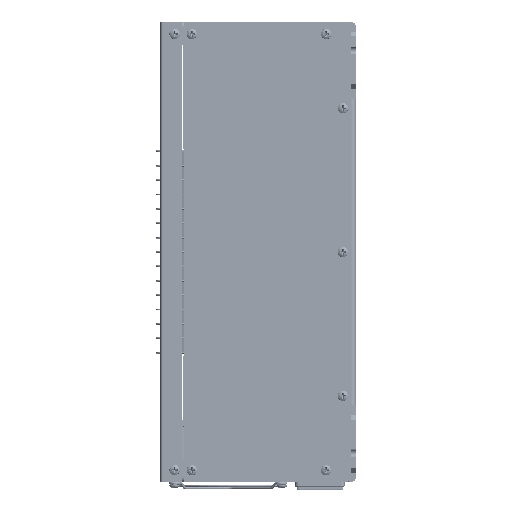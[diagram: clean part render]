
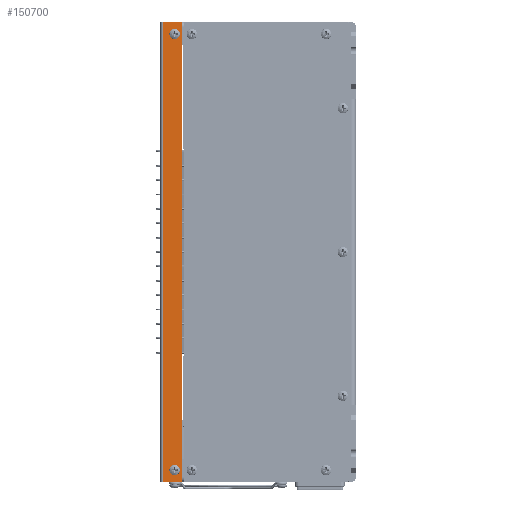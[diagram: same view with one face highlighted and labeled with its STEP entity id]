
A CAD part, left-side view. The second image highlights one B-rep face of the part: STEP entity #150700.
In plain terms, the highlighted planar face has unit normal (-1, 0, 0).
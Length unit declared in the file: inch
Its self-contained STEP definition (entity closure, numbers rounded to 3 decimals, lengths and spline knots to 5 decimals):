
#45 = DIRECTION ( 'NONE',  ( 0., 0., -1. ) ) ;
#48 = DIRECTION ( 'NONE',  ( 1., 0., 0. ) ) ;
#52 = CARTESIAN_POINT ( 'NONE',  ( 0., -0.375, 0.3125 ) ) ;
#24650 = VERTEX_POINT ( 'NONE', #376387 ) ;
#57467 = EDGE_CURVE ( 'NONE', #24650, #318519, #335330, .T. ) ;
#81429 = CARTESIAN_POINT ( 'NONE',  ( 0., -0.375, 0.4065 ) ) ;
#81998 = CARTESIAN_POINT ( 'NONE',  ( 0., -0.375, 0.2185 ) ) ;
#83243 = DIRECTION ( 'NONE',  ( 0., 0., -1. ) ) ;
#83244 = DIRECTION ( 'NONE',  ( 1., 0., 0. ) ) ;
#83246 = CARTESIAN_POINT ( 'NONE',  ( 0., -0.375, 0.3125 ) ) ;
#83297 = CIRCLE ( 'NONE', #83306, 0.094 ) ;
#83306 = AXIS2_PLACEMENT_3D ( 'NONE', #83246, #83244, #83243 ) ;
#85593 = VERTEX_POINT ( 'NONE', #81429 ) ;
#85671 = VERTEX_POINT ( 'NONE', #81998 ) ;
#85951 = EDGE_CURVE ( 'NONE', #85593, #85671, #83297, .T. ) ;
#86493 = EDGE_CURVE ( 'NONE', #86773, #86750, #86533, .T. ) ;
#86515 = DIRECTION ( 'NONE',  ( 0., 0., -1. ) ) ;
#86518 = DIRECTION ( 'NONE',  ( 1., 0., 0. ) ) ;
#86520 = CARTESIAN_POINT ( 'NONE',  ( 0., -0.375, 11.6875 ) ) ;
#86522 = AXIS2_PLACEMENT_3D ( 'NONE', #86520, #86518, #86515 ) ;
#86533 = CIRCLE ( 'NONE', #86522, 0.094 ) ;
#86750 = VERTEX_POINT ( 'NONE', #88436 ) ;
#86773 = VERTEX_POINT ( 'NONE', #88670 ) ;
#88436 = CARTESIAN_POINT ( 'NONE',  ( 0., -0.375, 11.5935 ) ) ;
#88670 = CARTESIAN_POINT ( 'NONE',  ( 0., -0.375, 11.7815 ) ) ;
#141532 = EDGE_LOOP ( 'NONE', ( #150794, #409936 ) ) ;
#145842 = EDGE_LOOP ( 'NONE', ( #412511, #412439, #150912, #410245 ) ) ;
#146241 = ORIENTED_EDGE ( 'NONE', *, *, #413125, .T. ) ;
#147827 = EDGE_CURVE ( 'NONE', #319186, #318519, #204297, .T. ) ;
#150253 = DIRECTION ( 'NONE',  ( 0., 0., -1. ) ) ;
#150255 = DIRECTION ( 'NONE',  ( 1., 0., 0. ) ) ;
#150257 = AXIS2_PLACEMENT_3D ( 'NONE', #150302, #150255, #150253 ) ;
#150302 = CARTESIAN_POINT ( 'NONE',  ( 0., -0.375, 11.6875 ) ) ;
#150314 = CIRCLE ( 'NONE', #150257, 0.094 ) ;
#150363 = ORIENTED_EDGE ( 'NONE', *, *, #85951, .T. ) ;
#150700 = ADVANCED_FACE ( 'NONE', ( #208104, #208068, #207910 ), #208083, .T. ) ;
#150766 = CARTESIAN_POINT ( 'NONE',  ( 0., -0.575, 12. ) ) ;
#150769 = LINE ( 'NONE', #150766, #150998 ) ;
#150794 = ORIENTED_EDGE ( 'NONE', *, *, #438523, .T. ) ;
#150912 = ORIENTED_EDGE ( 'NONE', *, *, #438635, .T. ) ;
#150990 = EDGE_LOOP ( 'NONE', ( #146241, #150363 ) ) ;
#150996 = DIRECTION ( 'NONE',  ( 0., 1., 0. ) ) ;
#150998 = VECTOR ( 'NONE', #150996, 39.37008 ) ;
#166453 = CARTESIAN_POINT ( 'NONE',  ( 0., -0.07, 0. ) ) ;
#169196 = CARTESIAN_POINT ( 'NONE',  ( 0., -0.07, 12. ) ) ;
#204252 = CARTESIAN_POINT ( 'NONE',  ( 0., -0.07, 12. ) ) ;
#204297 = LINE ( 'NONE', #204252, #204398 ) ;
#204398 = VECTOR ( 'NONE', #204579, 39.37008 ) ;
#204579 = DIRECTION ( 'NONE',  ( 0., 0., -1. ) ) ;
#207910 = FACE_OUTER_BOUND ( 'NONE', #145842, .T. ) ;
#208060 = DIRECTION ( 'NONE',  ( 0., 0., 1. ) ) ;
#208062 = DIRECTION ( 'NONE',  ( -1., 0., 0. ) ) ;
#208064 = CARTESIAN_POINT ( 'NONE',  ( 0., -0.575, 12. ) ) ;
#208068 = FACE_BOUND ( 'NONE', #141532, .T. ) ;
#208075 = AXIS2_PLACEMENT_3D ( 'NONE', #208064, #208062, #208060 ) ;
#208083 = PLANE ( 'NONE',  #208075 ) ;
#208104 = FACE_BOUND ( 'NONE', #150990, .T. ) ;
#318519 = VERTEX_POINT ( 'NONE', #166453 ) ;
#319186 = VERTEX_POINT ( 'NONE', #169196 ) ;
#335315 = DIRECTION ( 'NONE',  ( 0., 1., 0. ) ) ;
#335317 = VECTOR ( 'NONE', #335315, 39.37008 ) ;
#335327 = CARTESIAN_POINT ( 'NONE',  ( 0., -0.575, 0. ) ) ;
#335330 = LINE ( 'NONE', #335327, #335317 ) ;
#376387 = CARTESIAN_POINT ( 'NONE',  ( 0., -0.575, 0. ) ) ;
#409936 = ORIENTED_EDGE ( 'NONE', *, *, #86493, .T. ) ;
#410194 = VERTEX_POINT ( 'NONE', #447836 ) ;
#410245 = ORIENTED_EDGE ( 'NONE', *, *, #147827, .T. ) ;
#412439 = ORIENTED_EDGE ( 'NONE', *, *, #412551, .F. ) ;
#412511 = ORIENTED_EDGE ( 'NONE', *, *, #57467, .F. ) ;
#412551 = EDGE_CURVE ( 'NONE', #410194, #24650, #458513, .T. ) ;
#413125 = EDGE_CURVE ( 'NONE', #85671, #85593, #460584, .T. ) ;
#438523 = EDGE_CURVE ( 'NONE', #86750, #86773, #150314, .T. ) ;
#438635 = EDGE_CURVE ( 'NONE', #410194, #319186, #150769, .T. ) ;
#447836 = CARTESIAN_POINT ( 'NONE',  ( 0., -0.575, 12. ) ) ;
#458509 = DIRECTION ( 'NONE',  ( 0., 0., -1. ) ) ;
#458510 = VECTOR ( 'NONE', #458509, 39.37008 ) ;
#458512 = CARTESIAN_POINT ( 'NONE',  ( 0., -0.575, 12. ) ) ;
#458513 = LINE ( 'NONE', #458512, #458510 ) ;
#460522 = AXIS2_PLACEMENT_3D ( 'NONE', #52, #48, #45 ) ;
#460584 = CIRCLE ( 'NONE', #460522, 0.094 ) ;
